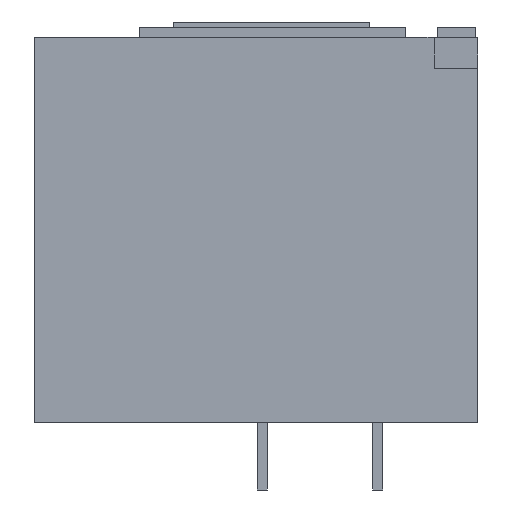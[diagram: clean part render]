
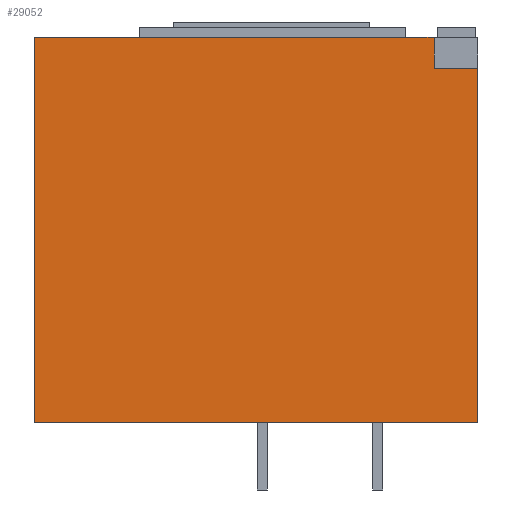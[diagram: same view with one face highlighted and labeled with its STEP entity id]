
A CAD part, left-side view. The second image highlights one B-rep face of the part: STEP entity #29052.
In plain terms, the highlighted planar face has unit normal (-1, 0, 0).
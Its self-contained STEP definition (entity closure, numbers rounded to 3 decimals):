
#373 = LINE ( 'NONE', #14570, #17034 ) ;
#634 = VERTEX_POINT ( 'NONE', #32909 ) ;
#3041 = CARTESIAN_POINT ( 'NONE',  ( -167.5, 430.001, -30. ) ) ;
#6491 = EDGE_CURVE ( 'NONE', #21658, #634, #20019, .T. ) ;
#6602 = LINE ( 'NONE', #17157, #31370 ) ;
#6942 = ORIENTED_EDGE ( 'NONE', *, *, #30871, .F. ) ;
#7336 = LINE ( 'NONE', #34234, #9322 ) ;
#8480 = EDGE_CURVE ( 'NONE', #12664, #21883, #14141, .T. ) ;
#9322 = VECTOR ( 'NONE', #12635, 1000. ) ;
#9899 = FACE_OUTER_BOUND ( 'NONE', #28426, .T. ) ;
#9901 = VECTOR ( 'NONE', #26818, 1000. ) ;
#12635 = DIRECTION ( 'NONE',  ( 0., -1., 0. ) ) ;
#12664 = VERTEX_POINT ( 'NONE', #30866 ) ;
#14141 = LINE ( 'NONE', #38774, #23343 ) ;
#14291 = PLANE ( 'NONE',  #27361 ) ;
#14570 = CARTESIAN_POINT ( 'NONE',  ( -167.5, 0., -373.5 ) ) ;
#15631 = VERTEX_POINT ( 'NONE', #31285 ) ;
#17034 = VECTOR ( 'NONE', #36340, 1000. ) ;
#17157 = CARTESIAN_POINT ( 'NONE',  ( -167.5, 0., -373.5 ) ) ;
#17255 = CARTESIAN_POINT ( 'NONE',  ( -167.5, 0., -30. ) ) ;
#17401 = DIRECTION ( 'NONE',  ( -1., 0., 0. ) ) ;
#18306 = ORIENTED_EDGE ( 'NONE', *, *, #19412, .F. ) ;
#19049 = ORIENTED_EDGE ( 'NONE', *, *, #19864, .T. ) ;
#19412 = EDGE_CURVE ( 'NONE', #21658, #25513, #29899, .T. ) ;
#19864 = EDGE_CURVE ( 'NONE', #12664, #15631, #6602, .T. ) ;
#19927 = DIRECTION ( 'NONE',  ( 0., 0., 1. ) ) ;
#20019 = LINE ( 'NONE', #36114, #9901 ) ;
#21652 = VECTOR ( 'NONE', #40510, 1000. ) ;
#21658 = VERTEX_POINT ( 'NONE', #32203 ) ;
#21883 = VERTEX_POINT ( 'NONE', #28612 ) ;
#23343 = VECTOR ( 'NONE', #19927, 1000. ) ;
#25513 = VERTEX_POINT ( 'NONE', #17255 ) ;
#25576 = ORIENTED_EDGE ( 'NONE', *, *, #30322, .T. ) ;
#26486 = CARTESIAN_POINT ( 'NONE',  ( -167.5, 0., -373.5 ) ) ;
#26818 = DIRECTION ( 'NONE',  ( 0., 0., 1. ) ) ;
#27361 = AXIS2_PLACEMENT_3D ( 'NONE', #26486, #17401, #39215 ) ;
#28426 = EDGE_LOOP ( 'NONE', ( #6942, #29864, #19049, #25576, #18306, #30224 ) ) ;
#28612 = CARTESIAN_POINT ( 'NONE',  ( -167.5, 430., 0. ) ) ;
#29052 = ADVANCED_FACE ( 'NONE', ( #9899 ), #14291, .T. ) ;
#29864 = ORIENTED_EDGE ( 'NONE', *, *, #8480, .F. ) ;
#29899 = LINE ( 'NONE', #3041, #21652 ) ;
#30041 = DIRECTION ( 'NONE',  ( 0., -1., 0. ) ) ;
#30224 = ORIENTED_EDGE ( 'NONE', *, *, #6491, .T. ) ;
#30322 = EDGE_CURVE ( 'NONE', #15631, #25513, #373, .T. ) ;
#30866 = CARTESIAN_POINT ( 'NONE',  ( -167.5, 430., -373.5 ) ) ;
#30871 = EDGE_CURVE ( 'NONE', #21883, #634, #7336, .T. ) ;
#31285 = CARTESIAN_POINT ( 'NONE',  ( -167.5, 0., -373.5 ) ) ;
#31370 = VECTOR ( 'NONE', #30041, 1000. ) ;
#32203 = CARTESIAN_POINT ( 'NONE',  ( -167.5, 42.5, -30. ) ) ;
#32909 = CARTESIAN_POINT ( 'NONE',  ( -167.5, 42.5, 0. ) ) ;
#34234 = CARTESIAN_POINT ( 'NONE',  ( -167.5, 0., 0. ) ) ;
#36114 = CARTESIAN_POINT ( 'NONE',  ( -167.5, 42.5, -373.5 ) ) ;
#36340 = DIRECTION ( 'NONE',  ( 0., 0., 1. ) ) ;
#38774 = CARTESIAN_POINT ( 'NONE',  ( -167.5, 430., -373.5 ) ) ;
#39215 = DIRECTION ( 'NONE',  ( 0., -1., 0. ) ) ;
#40510 = DIRECTION ( 'NONE',  ( 0., -1., 0. ) ) ;
